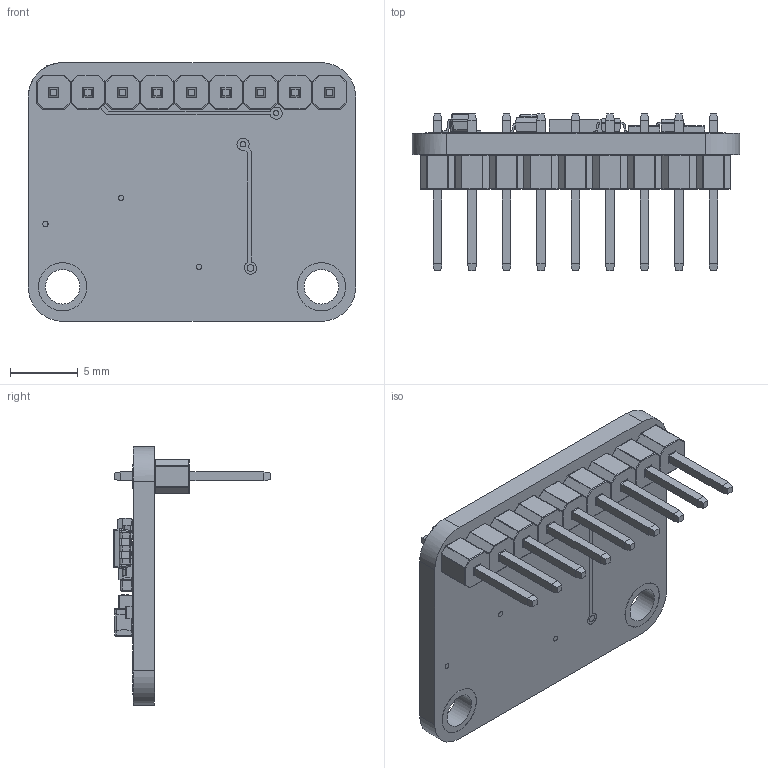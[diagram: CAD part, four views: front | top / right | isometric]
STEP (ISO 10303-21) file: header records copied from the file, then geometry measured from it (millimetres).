
FILE_DESCRIPTION(/* description */ (''),/* implementation_level */ '2;1');
FILE_NAME(/* name */ 'C:/Users/diego/Desktop/Projectos/Current/3D Models/Breakout boards/ADXL345 Digital Accelerometer/ADXL345 Digital Accelerometer.step',/* time_stamp */ '2021-01-26T18:12:08-08:00',/* author */ (''),/* organization */ (''),/* preprocessor_version */ 'ST-DEVELOPER v18.1',/* originating_system */ 'Autodesk Translation Framework v9.7.1.1290',/* authorisation */ '');
FILE_SCHEMA (('AUTOMOTIVE_DESIGN { 1 0 10303 214 3 1 1 }','MODEL_BASED_INTEGRATED_MANUFACTURING_SCHEMA'));
Products named in the file (9): ADXL345 Digital Accelerometer; 3x5 LGA Package; SOT-23-5; SOT 23-3; Capacitor 0805 T1.35 BN; Capacitor 0603 T0.9 BN; Resistor 0603; SOD-323 Package; Male Pin Header
Assembly tree (22 placements, depth 2):
  ADXL345 Digital Accelerometer
    3x5 LGA Package
    SOT-23-5
    SOT 23-3  x2
    Capacitor 0805 T1.35 BN
    Capacitor 0603 T0.9 BN
    Resistor 0603  x6
    SOD-323 Package
    Male Pin Header  x9
Bounding box: 24.13 x 11.6 x 19.05 mm (x, y, z)
Volume: 899.1 mm3; surface area: 1803.2 mm2
Topology: 43 solids, 44 shells, 4329 faces, 11466 edges, 7182 vertices
Faces by surface type: plane 2236, bspline 1034, cylinder 771, sphere 232, torus 56
Full cylindrical faces by diameter (mm): 0.3 x2, 0.348 x1, 0.4 x10, 0.5 x2, 0.9 x1, 1 x11, 1.05 x1, 1.624 x1, 1.8 x18, 2 x2, 2.54 x2, 3.556 x4
Entity records: 121884 total; most frequent: CARTESIAN_POINT 39827, ORIENTED_EDGE 18504, DIRECTION 12906, EDGE_CURVE 9252, LINE 6104, VECTOR 6104, VERTEX_POINT 6002, EDGE_LOOP 3530
